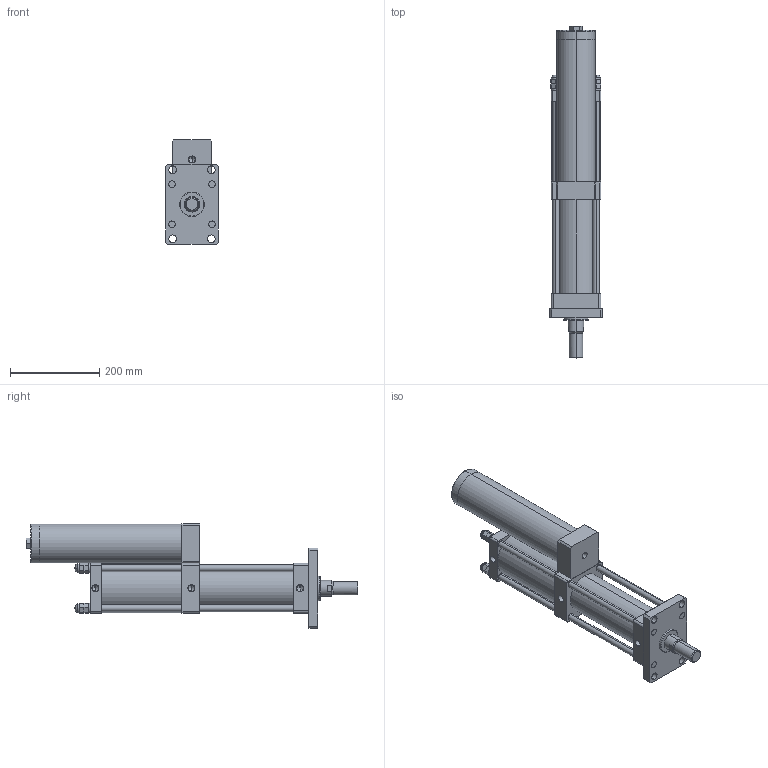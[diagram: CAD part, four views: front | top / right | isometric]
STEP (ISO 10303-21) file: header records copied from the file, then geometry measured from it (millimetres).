
FILE_DESCRIPTION (( 'STEP AP203' ), '1' );
FILE_NAME ('MPT-80-150-10-5T.STEP', '2016-03-11T01:41:01', ( 'WIN' ), ( '' ), 'SwSTEP 2.0', 'SolidWorks 2014', '' );
FILE_SCHEMA (( 'CONFIG_CONTROL_DESIGN' ));
Length unit declared in the file: millimetre
Products named in the file (1): MPT-80-150-10-5T
Bounding box: 118 x 745 x 235 mm (x, y, z)
Volume: 5727531.1 mm3; surface area: 696551 mm2
Topology: 20 solids, 20 shells, 391 faces, 954 edges, 554 vertices
Faces by surface type: plane 184, cylinder 84, torus 48, bspline 48, cone 27
Entity records: 12532 total; most frequent: CARTESIAN_POINT 3676, DIRECTION 1861, ORIENTED_EDGE 1776, EDGE_CURVE 888, AXIS2_PLACEMENT_3D 683, VERTEX_POINT 554, LINE 495, VECTOR 495
